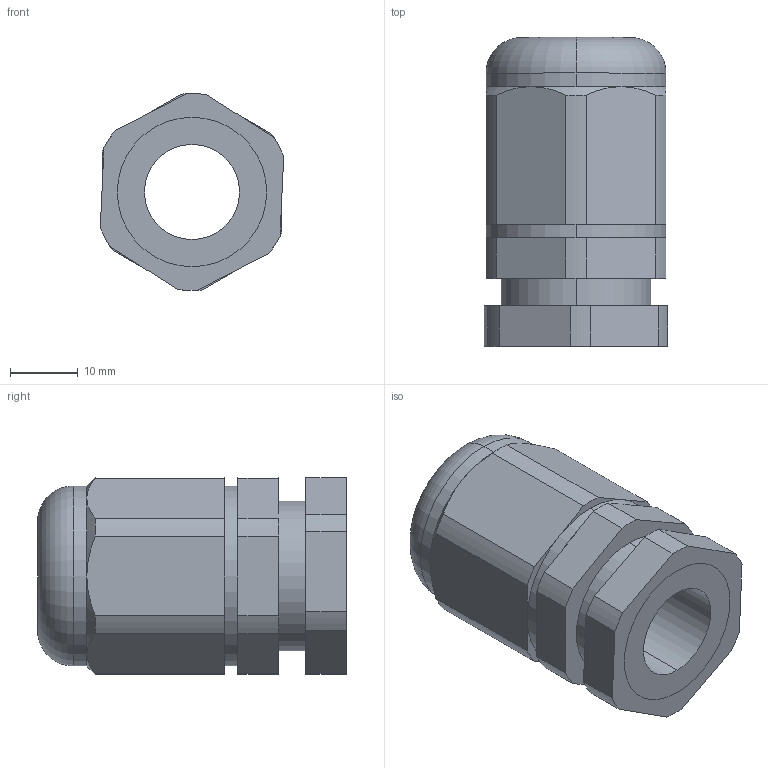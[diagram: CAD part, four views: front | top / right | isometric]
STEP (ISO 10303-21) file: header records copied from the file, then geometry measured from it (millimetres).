
FILE_DESCRIPTION (( 'STEP AP214' ), '1' );
FILE_NAME ('Ñàëüíèê PG16-(Dïðîâîäíèêà 9-13ìì)-IP54.STEP', '2023-02-20T06:44:28', ( '' ), ( '' ), 'SwSTEP 2.0', 'SolidWorks 2018', '' );
FILE_SCHEMA (( 'AUTOMOTIVE_DESIGN' ));
Length unit declared in the file: millimetre
Products named in the file (3): Ñàëüíèê PG16-(Dïðîâîäíèêà 9-13ìì)-IP54 äåòàëü; Ñàëüíèê PG16-(Dïðîâîäíèêà 9-13ìì)-IP54; Ñàëüíèê PG16-(Dïðîâîäíèêà 9-13ìì)-IP54 ãàéêà
Assembly tree (2 placements, depth 2):
  Ñàëüíèê PG16-(Dïðîâîäíèêà 9-13ìì)-IP54
    Ñàëüíèê PG16-(Dïðîâîäíèêà 9-13ìì)-IP54 äåòàëü
    Ñàëüíèê PG16-(Dïðîâîäíèêà 9-13ìì)-IP54 ãàéêà
Bounding box: 27.01 x 45.5 x 29 mm (x, y, z)
Volume: 18530.4 mm3; surface area: 7950.6 mm2
Topology: 2 solids, 2 shells, 75 faces, 188 edges, 118 vertices
Faces by surface type: plane 35, cylinder 31, cone 7, torus 2
Entity records: 2440 total; most frequent: CARTESIAN_POINT 482, DIRECTION 420, ORIENTED_EDGE 376, EDGE_CURVE 188, AXIS2_PLACEMENT_3D 164, VERTEX_POINT 118, VECTOR 92, LINE 92
